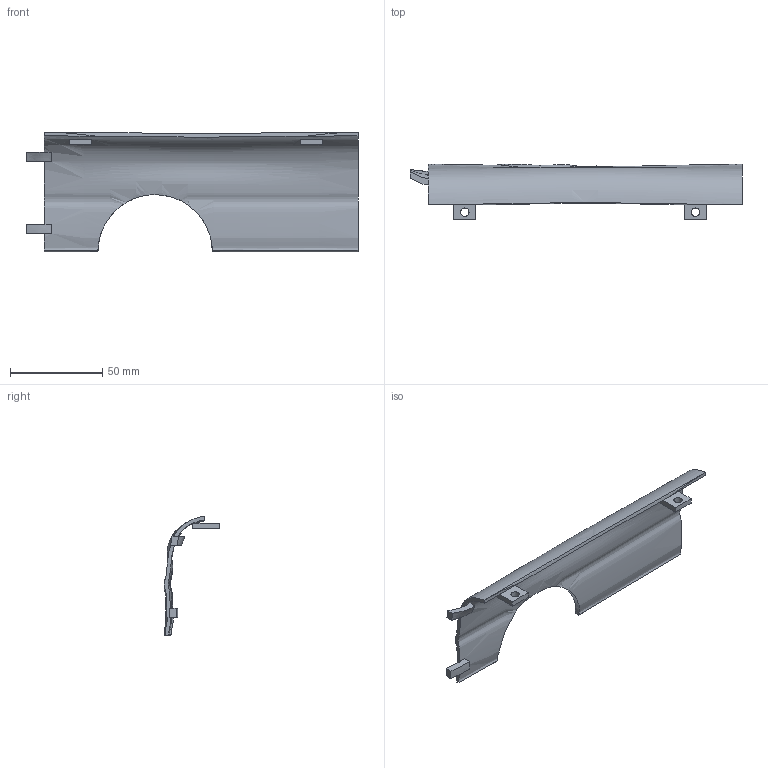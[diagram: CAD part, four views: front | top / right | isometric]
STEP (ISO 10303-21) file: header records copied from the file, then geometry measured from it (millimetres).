
FILE_DESCRIPTION(('Open CASCADE Model'),'2;1');
FILE_NAME('Open CASCADE Shape Model','2026-10-28T14:51:55',('Author'),( 'Open CASCADE'),'Open CASCADE STEP processor 7.8','Open CASCADE 7.8' ,'Unknown');
FILE_SCHEMA(('AUTOMOTIVE_DESIGN { 1 0 10303 214 1 1 1 1 }'));
Length unit declared in the file: millimetre
Products named in the file (1): Open CASCADE STEP translator 7.8 4
Bounding box: 180 x 30 x 64.9 mm (x, y, z)
Volume: 23623.3 mm3; surface area: 24917.9 mm2
Topology: 1 solids, 1 shells, 53 faces, 135 edges, 88 vertices
Faces by surface type: bspline 29, plane 20, cylinder 4
Full cylindrical faces by diameter (mm): 4.6 x2
Entity records: 28842 total; most frequent: CARTESIAN_POINT 26536, ORIENTED_EDGE 270, PCURVE 270, DEFINITIONAL_REPRESENTATION 270, DIRECTION 261, B_SPLINE_CURVE_WITH_KNOTS 200, LINE 193, VECTOR 193
